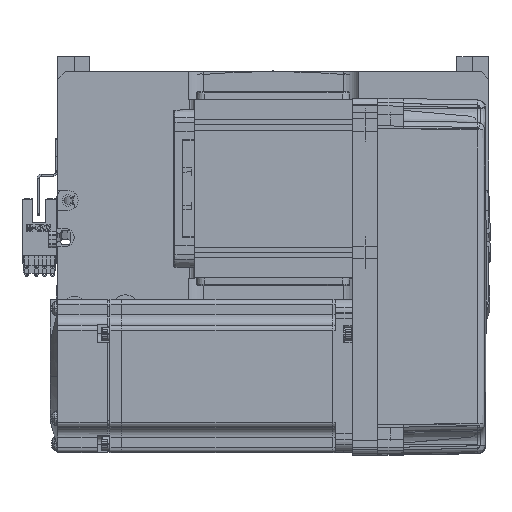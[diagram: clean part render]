
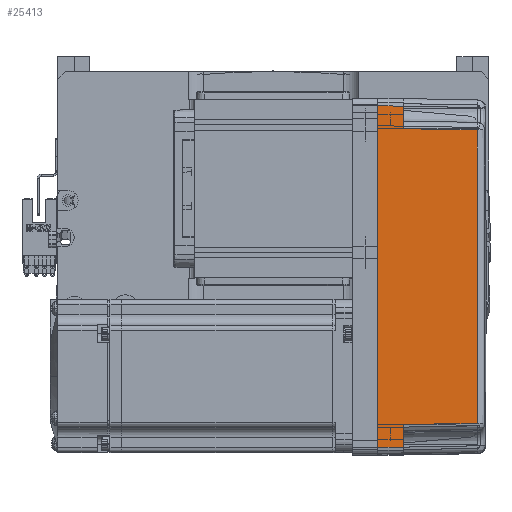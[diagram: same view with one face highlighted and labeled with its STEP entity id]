
A CAD part, top view. The second image highlights one B-rep face of the part: STEP entity #25413.
In plain terms, the highlighted planar face has unit normal (0.018, 0, 1) as drawn and (0, 1, 0.017) by its records, which use the part's own axes.
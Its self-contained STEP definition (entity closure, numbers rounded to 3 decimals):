
#574 = CARTESIAN_POINT ( 'NONE',  ( -58., 35.825, 10. ) ) ;
#796 = VERTEX_POINT ( 'NONE', #5217 ) ;
#1507 = CARTESIAN_POINT ( 'NONE',  ( 57.495, 35.32, 38.985 ) ) ;
#2756 = CARTESIAN_POINT ( 'NONE',  ( -19.165, 35.316, 39.181 ) ) ;
#3233 = DIRECTION ( 'NONE',  ( 0.017, 0.017, -1. ) ) ;
#3368 = ORIENTED_EDGE ( 'NONE', *, *, #16943, .T. ) ;
#4003 = CARTESIAN_POINT ( 'NONE',  ( -67., 36., 0. ) ) ;
#4664 = DIRECTION ( 'NONE',  ( 0.017, -0.017, 1. ) ) ;
#5217 = CARTESIAN_POINT ( 'NONE',  ( -58., 35.825, 10. ) ) ;
#5916 = DIRECTION ( 'NONE',  ( 1., 0., 0. ) ) ;
#6249 = EDGE_CURVE ( 'NONE', #44907, #23721, #24874, .T. ) ;
#6941 = EDGE_CURVE ( 'NONE', #14337, #44907, #54686, .T. ) ;
#9223 = DIRECTION ( 'NONE',  ( 1., 0., 0. ) ) ;
#9841 = CARTESIAN_POINT ( 'NONE',  ( -66.826, 35.825, 10. ) ) ;
#10117 = EDGE_CURVE ( 'NONE', #62479, #796, #51766, .T. ) ;
#10716 = VERTEX_POINT ( 'NONE', #60798 ) ;
#11381 = ORIENTED_EDGE ( 'NONE', *, *, #47951, .F. ) ;
#12409 = DIRECTION ( 'NONE',  ( 0., 1., 0.017 ) ) ;
#12578 = FACE_OUTER_BOUND ( 'NONE', #19955, .T. ) ;
#12838 = PLANE ( 'NONE',  #59662 ) ;
#14337 = VERTEX_POINT ( 'NONE', #1507 ) ;
#15568 = CARTESIAN_POINT ( 'NONE',  ( -67., 36., 0. ) ) ;
#16105 = DIRECTION ( 'NONE',  ( -0.017, -0.017, 1. ) ) ;
#16743 = CARTESIAN_POINT ( 'NONE',  ( 70., 35.825, 10. ) ) ;
#16943 = EDGE_CURVE ( 'NONE', #45390, #62479, #62052, .T. ) ;
#17171 = VERTEX_POINT ( 'NONE', #27451 ) ;
#17698 = CARTESIAN_POINT ( 'NONE',  ( 19.165, 35.316, 39.181 ) ) ;
#18837 = LINE ( 'NONE', #66421, #46386 ) ;
#19955 = EDGE_LOOP ( 'NONE', ( #3368, #34961, #61873, #49198, #58220, #39346, #11381, #65787 ) ) ;
#20954 = EDGE_CURVE ( 'NONE', #10716, #14337, #42875, .T. ) ;
#21047 = LINE ( 'NONE', #574, #43657 ) ;
#23721 = VERTEX_POINT ( 'NONE', #34803 ) ;
#24018 = VECTOR ( 'NONE', #4664, 1000. ) ;
#24874 = LINE ( 'NONE', #60554, #63744 ) ;
#25413 = ADVANCED_FACE ( 'NONE', ( #12578 ), #12838, .T. ) ;
#27451 = CARTESIAN_POINT ( 'NONE',  ( 67., 36., 0. ) ) ;
#32975 = LINE ( 'NONE', #62253, #40243 ) ;
#34449 = VECTOR ( 'NONE', #3233, 1000. ) ;
#34803 = CARTESIAN_POINT ( 'NONE',  ( 66.826, 35.825, 10. ) ) ;
#34961 = ORIENTED_EDGE ( 'NONE', *, *, #10117, .T. ) ;
#39346 = ORIENTED_EDGE ( 'NONE', *, *, #6249, .T. ) ;
#40243 = VECTOR ( 'NONE', #16105, 1000. ) ;
#42875 = B_SPLINE_CURVE_WITH_KNOTS ( 'NONE', 3,
 ( #48837, #2756, #17698, #58871 ),
 .UNSPECIFIED., .F., .F.,
 ( 4, 4 ),
 ( 0., 1. ),
 .UNSPECIFIED. ) ;
#43657 = VECTOR ( 'NONE', #47082, 1000. ) ;
#44114 = CARTESIAN_POINT ( 'NONE',  ( 58., 35.825, 10. ) ) ;
#44907 = VERTEX_POINT ( 'NONE', #44114 ) ;
#45390 = VERTEX_POINT ( 'NONE', #15568 ) ;
#46386 = VECTOR ( 'NONE', #9223, 1000. ) ;
#47082 = DIRECTION ( 'NONE',  ( 0.017, -0.017, 1. ) ) ;
#47951 = EDGE_CURVE ( 'NONE', #17171, #23721, #32975, .T. ) ;
#48837 = CARTESIAN_POINT ( 'NONE',  ( -57.495, 35.32, 38.985 ) ) ;
#48967 = DIRECTION ( 'NONE',  ( 0., -0.017, 1. ) ) ;
#49198 = ORIENTED_EDGE ( 'NONE', *, *, #20954, .T. ) ;
#50001 = CARTESIAN_POINT ( 'NONE',  ( 57.495, 35.32, 38.985 ) ) ;
#51766 = LINE ( 'NONE', #16743, #64745 ) ;
#53525 = CARTESIAN_POINT ( 'NONE',  ( 70., 36., 0. ) ) ;
#54686 = LINE ( 'NONE', #50001, #34449 ) ;
#56860 = EDGE_CURVE ( 'NONE', #45390, #17171, #18837, .T. ) ;
#58220 = ORIENTED_EDGE ( 'NONE', *, *, #6941, .T. ) ;
#58857 = EDGE_CURVE ( 'NONE', #796, #10716, #21047, .T. ) ;
#58871 = CARTESIAN_POINT ( 'NONE',  ( 57.495, 35.32, 38.985 ) ) ;
#59662 = AXIS2_PLACEMENT_3D ( 'NONE', #53525, #12409, #48967 ) ;
#60554 = CARTESIAN_POINT ( 'NONE',  ( 70., 35.825, 10. ) ) ;
#60798 = CARTESIAN_POINT ( 'NONE',  ( -57.495, 35.32, 38.985 ) ) ;
#61873 = ORIENTED_EDGE ( 'NONE', *, *, #58857, .T. ) ;
#62052 = LINE ( 'NONE', #4003, #24018 ) ;
#62253 = CARTESIAN_POINT ( 'NONE',  ( 67.001, 36.001, -0.052 ) ) ;
#62479 = VERTEX_POINT ( 'NONE', #9841 ) ;
#63744 = VECTOR ( 'NONE', #65732, 1000. ) ;
#64745 = VECTOR ( 'NONE', #5916, 1000. ) ;
#65732 = DIRECTION ( 'NONE',  ( 1., 0., 0. ) ) ;
#65787 = ORIENTED_EDGE ( 'NONE', *, *, #56860, .F. ) ;
#66421 = CARTESIAN_POINT ( 'NONE',  ( 0., 36., 0. ) ) ;
